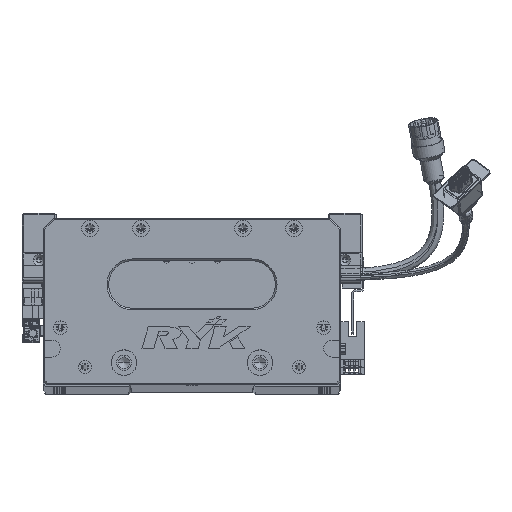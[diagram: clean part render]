
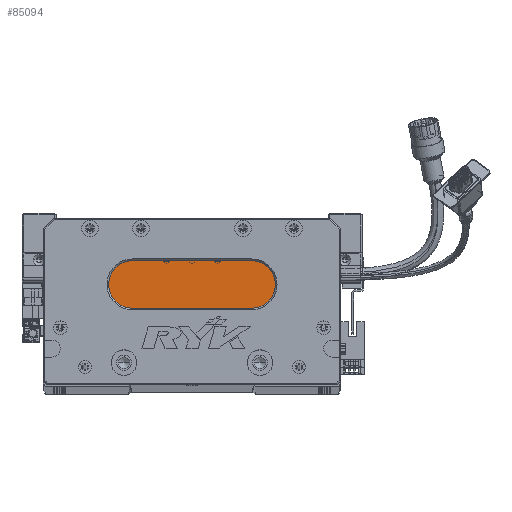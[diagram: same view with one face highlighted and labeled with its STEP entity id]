
A CAD part, top view. The second image highlights one B-rep face of the part: STEP entity #85094.
In plain terms, the highlighted planar face has unit normal (0, 0, 1) as drawn and (0, 0, -1) by its records, which use the part's own axes.
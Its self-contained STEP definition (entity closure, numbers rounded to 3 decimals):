
#1080 = AXIS2_PLACEMENT_3D ( 'NONE', #22115, #51365, #100746 ) ;
#4037 = CARTESIAN_POINT ( 'NONE',  ( 122.5, 59., 18. ) ) ;
#7624 = DIRECTION ( 'NONE',  ( -1., 0., 0. ) ) ;
#8294 = CARTESIAN_POINT ( 'NONE',  ( 52.5, 45., 18. ) ) ;
#8665 = EDGE_CURVE ( 'NONE', #60500, #122295, #30820, .T. ) ;
#9059 = EDGE_CURVE ( 'NONE', #80052, #49206, #103223, .T. ) ;
#11695 = LINE ( 'NONE', #108221, #17842 ) ;
#15130 = EDGE_LOOP ( 'NONE', ( #68033, #64969, #57159, #45172, #76390 ) ) ;
#15756 = CARTESIAN_POINT ( 'NONE',  ( 122.5, 45., 18. ) ) ;
#15780 = CARTESIAN_POINT ( 'NONE',  ( 122.5, 45., 18. ) ) ;
#16298 = DIRECTION ( 'NONE',  ( 1., 0., 0. ) ) ;
#17842 = VECTOR ( 'NONE', #16298, 1000. ) ;
#22115 = CARTESIAN_POINT ( 'NONE',  ( 52.5, 59., 18. ) ) ;
#28330 = EDGE_CURVE ( 'NONE', #122295, #80052, #77654, .T. ) ;
#28627 = DIRECTION ( 'NONE',  ( -1., 0., 0. ) ) ;
#30318 = CARTESIAN_POINT ( 'NONE',  ( 52.5, 59., 18. ) ) ;
#30820 = CIRCLE ( 'NONE', #123196, 14. ) ;
#44656 = CARTESIAN_POINT ( 'NONE',  ( 38.5, 59., 18. ) ) ;
#45172 = ORIENTED_EDGE ( 'NONE', *, *, #81044, .T. ) ;
#49206 = VERTEX_POINT ( 'NONE', #44656 ) ;
#49255 = DIRECTION ( 'NONE',  ( 0., 0., -1. ) ) ;
#51365 = DIRECTION ( 'NONE',  ( 0., 0., -1. ) ) ;
#53738 = CIRCLE ( 'NONE', #1080, 14. ) ;
#53834 = PLANE ( 'NONE',  #103394 ) ;
#57159 = ORIENTED_EDGE ( 'NONE', *, *, #9059, .T. ) ;
#59156 = CARTESIAN_POINT ( 'NONE',  ( 122.5, 59., 18. ) ) ;
#60500 = VERTEX_POINT ( 'NONE', #100959 ) ;
#62417 = CARTESIAN_POINT ( 'NONE',  ( 52.5, 73., 18. ) ) ;
#64969 = ORIENTED_EDGE ( 'NONE', *, *, #28330, .T. ) ;
#68033 = ORIENTED_EDGE ( 'NONE', *, *, #8665, .T. ) ;
#73721 = VERTEX_POINT ( 'NONE', #62417 ) ;
#75576 = EDGE_CURVE ( 'NONE', #73721, #60500, #11695, .T. ) ;
#76390 = ORIENTED_EDGE ( 'NONE', *, *, #75576, .T. ) ;
#77654 = LINE ( 'NONE', #15780, #120673 ) ;
#80052 = VERTEX_POINT ( 'NONE', #8294 ) ;
#81044 = EDGE_CURVE ( 'NONE', #49206, #73721, #53738, .T. ) ;
#85094 = ADVANCED_FACE ( 'NONE', ( #123708 ), #53834, .T. ) ;
#99043 = DIRECTION ( 'NONE',  ( 0., 0., -1. ) ) ;
#100746 = DIRECTION ( 'NONE',  ( -1., 0., 0. ) ) ;
#100959 = CARTESIAN_POINT ( 'NONE',  ( 122.5, 73., 18. ) ) ;
#103223 = CIRCLE ( 'NONE', #105162, 14. ) ;
#103394 = AXIS2_PLACEMENT_3D ( 'NONE', #4037, #121307, #122559 ) ;
#105162 = AXIS2_PLACEMENT_3D ( 'NONE', #30318, #99043, #28627 ) ;
#108221 = CARTESIAN_POINT ( 'NONE',  ( 122.5, 73., 18. ) ) ;
#118849 = DIRECTION ( 'NONE',  ( -1., 0., 0. ) ) ;
#120673 = VECTOR ( 'NONE', #7624, 1000. ) ;
#121307 = DIRECTION ( 'NONE',  ( 0., 0., -1. ) ) ;
#122295 = VERTEX_POINT ( 'NONE', #15756 ) ;
#122559 = DIRECTION ( 'NONE',  ( -1., 0., 0. ) ) ;
#123196 = AXIS2_PLACEMENT_3D ( 'NONE', #59156, #49255, #118849 ) ;
#123708 = FACE_OUTER_BOUND ( 'NONE', #15130, .T. ) ;
